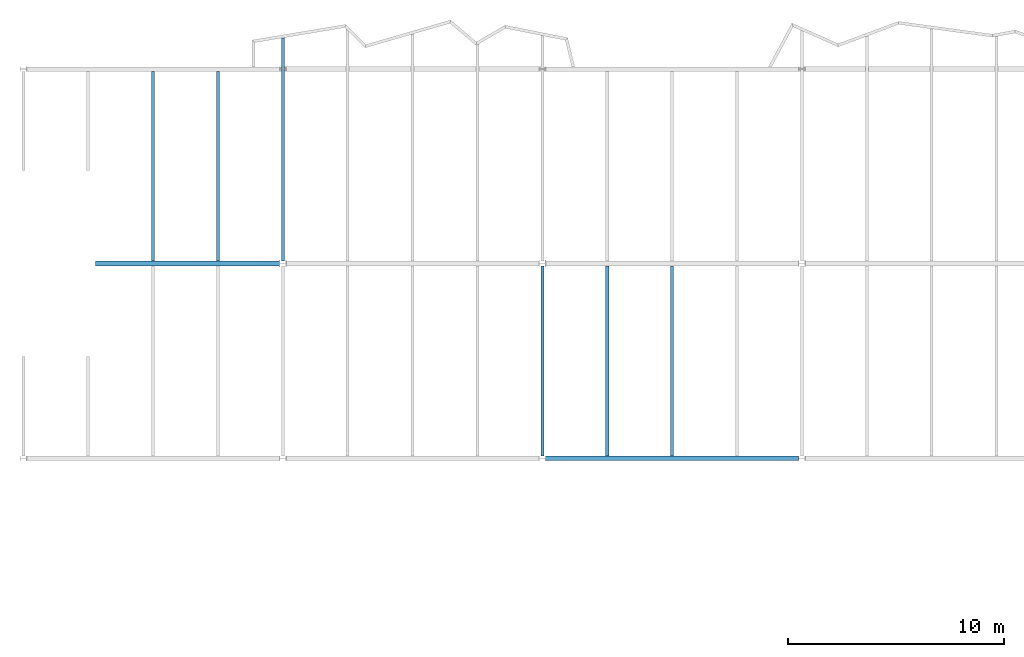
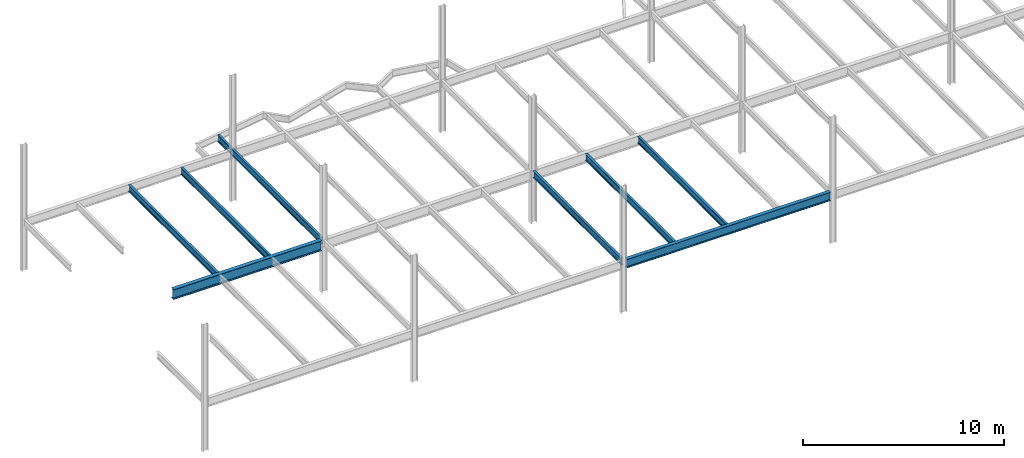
# One storey, part 4 of 23: 8 beams.
"""IFC2X3 building model written with IfcOpenShell, lengths in millimetres."""

from ifc_helpers import new_model, si_unit, origin, place, context, project, spatial, faceted_brep, material, element, save


model = new_model("IFC2X3")

# Units and contexts
context_of_model = context(None, 3, precision=1e-05, world=origin())
ifc_project = project(units=[si_unit("LENGTHUNIT", "METRE", prefix="MILLI")], contexts=[context_of_model])

# Building, storey
building = spatial("IfcBuilding", under=ifc_project, Name="Building", CompositionType="ELEMENT")
storey = spatial("IfcBuildingStorey", under=building, Name="FL5-FRM", CompositionType="ELEMENT")

# Beams
ifc_material_1 = material(Name="A992")
beam_1_placement = place(None, origin())
element("IfcBeam", 1, at=beam_1_placement, inside=storey, material=ifc_material_1, Name="B252", context=context_of_model, shape_type="Brep", body=[
    faceted_brep([(-48070.0, 37427.6, 17474.0), (-47930.0, 37450.9, 17474.0), (-47930.0, 27114.5, 17474.0), (-48070.0, 27114.5, 17474.0), (-47930.0, 37450.9, 17482.8), (-47930.0, 27114.5, 17482.8), (-47986.6, 37441.5, 17482.8), (-47986.6, 27114.5, 17482.8), (-47988.1, 37441.3, 17482.9), (-47988.1, 27114.5, 17482.9), (-47989.5, 37441.0, 17483.2), (-47989.5, 27114.5, 17483.2), (-47990.8, 37440.8, 17483.7), (-47990.8, 27114.5, 17483.7), (-47992.1, 37440.6, 17484.4), (-47992.1, 27114.5, 17484.4), (-47993.3, 37440.4, 17485.3), (-47993.3, 27114.5, 17485.3), (-47994.3, 37440.2, 17486.3), (-47994.3, 27114.5, 17486.3), (-47995.2, 37440.1, 17487.5), (-47995.2, 27114.5, 17487.5), (-47995.9, 37440.0, 17488.8), (-47995.9, 27114.5, 17488.8), (-47996.4, 37439.9, 17490.1), (-47996.4, 27114.5, 17490.1), (-47996.7, 37439.8, 17491.5), (-47996.7, 27114.5, 17491.5), (-47996.8, 37439.8, 17493.0), (-47996.8, 27114.5, 17493.0), (-47996.8, 37439.8, 17854.0), (-47996.8, 27114.5, 17854.0), (-47996.7, 37439.8, 17855.5), (-47996.7, 27114.5, 17855.5), (-47996.4, 37439.9, 17856.9), (-47996.4, 27114.5, 17856.9), (-47995.9, 37440.0, 17858.2), (-47995.9, 27114.5, 17858.2), (-47995.2, 37440.1, 17859.5), (-47995.2, 27114.5, 17859.5), (-47994.3, 37440.2, 17860.7), (-47994.3, 27114.5, 17860.7), (-47993.3, 37440.4, 17861.7), (-47993.3, 27114.5, 17861.7), (-47992.1, 37440.6, 17862.6), (-47992.1, 27114.5, 17862.6), (-47990.8, 37440.8, 17863.3), (-47990.8, 27114.5, 17863.3), (-47989.5, 37441.0, 17863.8), (-47989.5, 27114.5, 17863.8), (-47988.1, 37441.3, 17864.1), (-47988.1, 27114.5, 17864.1), (-47986.6, 37441.5, 17864.2), (-47986.6, 27114.5, 17864.2), (-47930.0, 37450.9, 17864.2), (-47930.0, 27114.5, 17864.2), (-47930.0, 37450.9, 17873.0), (-47930.0, 27114.5, 17873.0), (-48070.0, 37427.6, 17873.0), (-48070.0, 27114.5, 17873.0), (-48070.0, 37427.6, 17864.2), (-48070.0, 27114.5, 17864.2), (-48013.4, 37437.0, 17864.2), (-48013.4, 27114.5, 17864.2), (-48011.9, 37437.3, 17864.1), (-48011.9, 27114.5, 17864.1), (-48010.5, 37437.5, 17863.8), (-48010.5, 27114.5, 17863.8), (-48009.2, 37437.7, 17863.3), (-48009.2, 27114.5, 17863.3), (-48007.9, 37438.0, 17862.6), (-48007.9, 27114.5, 17862.6), (-48006.7, 37438.2, 17861.7), (-48006.7, 27114.5, 17861.7), (-48005.7, 37438.3, 17860.7), (-48005.7, 27114.5, 17860.7), (-48004.8, 37438.5, 17859.5), (-48004.8, 27114.5, 17859.5), (-48004.1, 37438.6, 17858.2), (-48004.1, 27114.5, 17858.2), (-48003.6, 37438.7, 17856.9), (-48003.6, 27114.5, 17856.9), (-48003.3, 37438.7, 17855.5), (-48003.3, 27114.5, 17855.5), (-48003.2, 37438.7, 17854.0), (-48003.2, 27114.5, 17854.0), (-48003.2, 37438.7, 17493.0), (-48003.2, 27114.5, 17493.0), (-48003.3, 37438.7, 17491.5), (-48003.3, 27114.5, 17491.5), (-48003.6, 37438.7, 17490.1), (-48003.6, 27114.5, 17490.1), (-48004.1, 37438.6, 17488.8), (-48004.1, 27114.5, 17488.8), (-48004.8, 37438.5, 17487.5), (-48004.8, 27114.5, 17487.5), (-48005.7, 37438.3, 17486.3), (-48005.7, 27114.5, 17486.3), (-48006.7, 37438.2, 17485.3), (-48006.7, 27114.5, 17485.3), (-48007.9, 37438.0, 17484.4), (-48007.9, 27114.5, 17484.4), (-48009.2, 37437.7, 17483.7), (-48009.2, 27114.5, 17483.7), (-48010.5, 37437.5, 17483.2), (-48010.5, 27114.5, 17483.2), (-48011.9, 37437.3, 17482.9), (-48011.9, 27114.5, 17482.9), (-48013.4, 37437.0, 17482.8), (-48013.4, 27114.5, 17482.8), (-48070.0, 37427.6, 17482.8), (-48070.0, 27114.5, 17482.8)], [[[0, 1, 2, 3]], [[1, 4, 5, 2]], [[4, 6, 7, 5]], [[6, 8, 9, 7]], [[8, 10, 11, 9]], [[10, 12, 13, 11]], [[12, 14, 15, 13]], [[14, 16, 17, 15]], [[16, 18, 19, 17]], [[18, 20, 21, 19]], [[20, 22, 23, 21]], [[22, 24, 25, 23]], [[24, 26, 27, 25]], [[26, 28, 29, 27]], [[28, 30, 31, 29]], [[30, 32, 33, 31]], [[32, 34, 35, 33]], [[34, 36, 37, 35]], [[36, 38, 39, 37]], [[38, 40, 41, 39]], [[40, 42, 43, 41]], [[42, 44, 45, 43]], [[44, 46, 47, 45]], [[46, 48, 49, 47]], [[48, 50, 51, 49]], [[50, 52, 53, 51]], [[52, 54, 55, 53]], [[54, 56, 57, 55]], [[56, 58, 59, 57]], [[58, 60, 61, 59]], [[60, 62, 63, 61]], [[62, 64, 65, 63]], [[64, 66, 67, 65]], [[66, 68, 69, 67]], [[68, 70, 71, 69]], [[70, 72, 73, 71]], [[72, 74, 75, 73]], [[74, 76, 77, 75]], [[76, 78, 79, 77]], [[78, 80, 81, 79]], [[80, 82, 83, 81]], [[82, 84, 85, 83]], [[84, 86, 87, 85]], [[86, 88, 89, 87]], [[88, 90, 91, 89]], [[90, 92, 93, 91]], [[92, 94, 95, 93]], [[94, 96, 97, 95]], [[96, 98, 99, 97]], [[98, 100, 101, 99]], [[100, 102, 103, 101]], [[102, 104, 105, 103]], [[104, 106, 107, 105]], [[106, 108, 109, 107]], [[108, 110, 111, 109]], [[110, 0, 3, 111]], [[0, 110, 108, 106, 104, 102, 100, 98, 96, 94, 92, 90, 88, 86, 84, 82, 80, 78, 76, 74, 72, 70, 68, 66, 64, 62, 60, 58, 56, 54, 52, 50, 48, 46, 44, 42, 40, 38, 36, 34, 32, 30, 28, 26, 24, 22, 20, 18, 16, 14, 12, 10, 8, 6, 4, 1]], [[3, 2, 5, 7, 9, 11, 13, 15, 17, 19, 21, 23, 25, 27, 29, 31, 33, 35, 37, 39, 41, 43, 45, 47, 49, 51, 53, 55, 57, 59, 61, 63, 65, 67, 69, 71, 73, 75, 77, 79, 81, 83, 85, 87, 89, 91, 93, 95, 97, 99, 101, 103, 105, 107, 109, 111]]]),
])
ifc_material_2 = material(Name="A992")
beam_2_placement = place(None, origin())
element("IfcBeam", 2, at=beam_2_placement, inside=storey, material=ifc_material_2, Name="B269", context=context_of_model, shape_type="Brep", body=[
    faceted_brep([(-51070.0, 35895.5, 17474.0), (-50930.0, 35895.5, 17474.0), (-50930.0, 27114.5, 17474.0), (-51070.0, 27114.5, 17474.0), (-50930.0, 35895.5, 17482.8), (-50930.0, 27114.5, 17482.8), (-50986.6, 35895.5, 17482.8), (-50986.6, 27114.5, 17482.8), (-50989.2, 35895.5, 17483.1), (-50989.2, 27114.5, 17483.1), (-50991.7, 35895.5, 17484.2), (-50991.7, 27114.5, 17484.2), (-50993.8, 35895.5, 17485.8), (-50993.8, 27114.5, 17485.8), (-50995.4, 35895.5, 17487.9), (-50995.4, 27114.5, 17487.9), (-50996.5, 35895.5, 17490.4), (-50996.5, 27114.5, 17490.4), (-50996.8, 35895.5, 17493.0), (-50996.8, 27114.5, 17493.0), (-50996.8, 35895.5, 17854.0), (-50996.8, 27114.5, 17854.0), (-50996.5, 35895.5, 17856.6), (-50996.5, 27114.5, 17856.6), (-50995.4, 35895.5, 17859.1), (-50995.4, 27114.5, 17859.1), (-50993.8, 35895.5, 17861.2), (-50993.8, 27114.5, 17861.2), (-50991.7, 35895.5, 17862.8), (-50991.7, 27114.5, 17862.8), (-50989.2, 35895.5, 17863.9), (-50989.2, 27114.5, 17863.9), (-50986.6, 35895.5, 17864.2), (-50986.6, 27114.5, 17864.2), (-50930.0, 35895.5, 17864.2), (-50930.0, 27114.5, 17864.2), (-50930.0, 35895.5, 17873.0), (-50930.0, 27114.5, 17873.0), (-51070.0, 35895.5, 17873.0), (-51070.0, 27114.5, 17873.0), (-51070.0, 35895.5, 17864.2), (-51070.0, 27114.5, 17864.2), (-51013.4, 35895.5, 17864.2), (-51013.4, 27114.5, 17864.2), (-51010.8, 35895.5, 17863.9), (-51010.8, 27114.5, 17863.9), (-51008.3, 35895.5, 17862.8), (-51008.3, 27114.5, 17862.8), (-51006.2, 35895.5, 17861.2), (-51006.2, 27114.5, 17861.2), (-51004.6, 35895.5, 17859.1), (-51004.6, 27114.5, 17859.1), (-51003.5, 35895.5, 17856.6), (-51003.5, 27114.5, 17856.6), (-51003.2, 35895.5, 17854.0), (-51003.2, 27114.5, 17854.0), (-51003.2, 35895.5, 17493.0), (-51003.2, 27114.5, 17493.0), (-51003.5, 35895.5, 17490.4), (-51003.5, 27114.5, 17490.4), (-51004.6, 35895.5, 17487.9), (-51004.6, 27114.5, 17487.9), (-51006.2, 35895.5, 17485.8), (-51006.2, 27114.5, 17485.8), (-51008.3, 35895.5, 17484.2), (-51008.3, 27114.5, 17484.2), (-51010.8, 35895.5, 17483.1), (-51010.8, 27114.5, 17483.1), (-51013.4, 35895.5, 17482.8), (-51013.4, 27114.5, 17482.8), (-51070.0, 35895.5, 17482.8), (-51070.0, 27114.5, 17482.8)], [[[0, 1, 2, 3]], [[1, 4, 5, 2]], [[4, 6, 7, 5]], [[6, 8, 9, 7]], [[8, 10, 11, 9]], [[10, 12, 13, 11]], [[12, 14, 15, 13]], [[14, 16, 17, 15]], [[16, 18, 19, 17]], [[18, 20, 21, 19]], [[20, 22, 23, 21]], [[22, 24, 25, 23]], [[24, 26, 27, 25]], [[26, 28, 29, 27]], [[28, 30, 31, 29]], [[30, 32, 33, 31]], [[32, 34, 35, 33]], [[34, 36, 37, 35]], [[36, 38, 39, 37]], [[38, 40, 41, 39]], [[40, 42, 43, 41]], [[42, 44, 45, 43]], [[44, 46, 47, 45]], [[46, 48, 49, 47]], [[48, 50, 51, 49]], [[50, 52, 53, 51]], [[52, 54, 55, 53]], [[54, 56, 57, 55]], [[56, 58, 59, 57]], [[58, 60, 61, 59]], [[60, 62, 63, 61]], [[62, 64, 65, 63]], [[64, 66, 67, 65]], [[66, 68, 69, 67]], [[68, 70, 71, 69]], [[70, 0, 3, 71]], [[0, 70, 68, 66, 64, 62, 60, 58, 56, 54, 52, 50, 48, 46, 44, 42, 40, 38, 36, 34, 32, 30, 28, 26, 24, 22, 20, 18, 16, 14, 12, 10, 8, 6, 4, 1]], [[3, 2, 5, 7, 9, 11, 13, 15, 17, 19, 21, 23, 25, 27, 29, 31, 33, 35, 37, 39, 41, 43, 45, 47, 49, 51, 53, 55, 57, 59, 61, 63, 65, 67, 69, 71]]]),
])
ifc_material_3 = material(Name="A992")
beam_3_placement = place(None, origin())
element("IfcBeam", 3, at=beam_3_placement, inside=storey, material=ifc_material_3, Name="B270", context=context_of_model, shape_type="Brep", body=[
    faceted_brep([(-54070.0, 35895.5, 17474.0), (-53930.0, 35895.5, 17474.0), (-53930.0, 27114.5, 17474.0), (-54070.0, 27114.5, 17474.0), (-53930.0, 35895.5, 17482.8), (-53930.0, 27114.5, 17482.8), (-53986.6, 35895.5, 17482.8), (-53986.6, 27114.5, 17482.8), (-53989.2, 35895.5, 17483.1), (-53989.2, 27114.5, 17483.1), (-53991.7, 35895.5, 17484.2), (-53991.7, 27114.5, 17484.2), (-53993.8, 35895.5, 17485.8), (-53993.8, 27114.5, 17485.8), (-53995.4, 35895.5, 17487.9), (-53995.4, 27114.5, 17487.9), (-53996.5, 35895.5, 17490.4), (-53996.5, 27114.5, 17490.4), (-53996.8, 35895.5, 17493.0), (-53996.8, 27114.5, 17493.0), (-53996.8, 35895.5, 17854.0), (-53996.8, 27114.5, 17854.0), (-53996.5, 35895.5, 17856.6), (-53996.5, 27114.5, 17856.6), (-53995.4, 35895.5, 17859.1), (-53995.4, 27114.5, 17859.1), (-53993.8, 35895.5, 17861.2), (-53993.8, 27114.5, 17861.2), (-53991.7, 35895.5, 17862.8), (-53991.7, 27114.5, 17862.8), (-53989.2, 35895.5, 17863.9), (-53989.2, 27114.5, 17863.9), (-53986.6, 35895.5, 17864.2), (-53986.6, 27114.5, 17864.2), (-53930.0, 35895.5, 17864.2), (-53930.0, 27114.5, 17864.2), (-53930.0, 35895.5, 17873.0), (-53930.0, 27114.5, 17873.0), (-54070.0, 35895.5, 17873.0), (-54070.0, 27114.5, 17873.0), (-54070.0, 35895.5, 17864.2), (-54070.0, 27114.5, 17864.2), (-54013.4, 35895.5, 17864.2), (-54013.4, 27114.5, 17864.2), (-54010.8, 35895.5, 17863.9), (-54010.8, 27114.5, 17863.9), (-54008.3, 35895.5, 17862.8), (-54008.3, 27114.5, 17862.8), (-54006.2, 35895.5, 17861.2), (-54006.2, 27114.5, 17861.2), (-54004.6, 35895.5, 17859.1), (-54004.6, 27114.5, 17859.1), (-54003.5, 35895.5, 17856.6), (-54003.5, 27114.5, 17856.6), (-54003.2, 35895.5, 17854.0), (-54003.2, 27114.5, 17854.0), (-54003.2, 35895.5, 17493.0), (-54003.2, 27114.5, 17493.0), (-54003.5, 35895.5, 17490.4), (-54003.5, 27114.5, 17490.4), (-54004.6, 35895.5, 17487.9), (-54004.6, 27114.5, 17487.9), (-54006.2, 35895.5, 17485.8), (-54006.2, 27114.5, 17485.8), (-54008.3, 35895.5, 17484.2), (-54008.3, 27114.5, 17484.2), (-54010.8, 35895.5, 17483.1), (-54010.8, 27114.5, 17483.1), (-54013.4, 35895.5, 17482.8), (-54013.4, 27114.5, 17482.8), (-54070.0, 35895.5, 17482.8), (-54070.0, 27114.5, 17482.8)], [[[0, 1, 2, 3]], [[1, 4, 5, 2]], [[4, 6, 7, 5]], [[6, 8, 9, 7]], [[8, 10, 11, 9]], [[10, 12, 13, 11]], [[12, 14, 15, 13]], [[14, 16, 17, 15]], [[16, 18, 19, 17]], [[18, 20, 21, 19]], [[20, 22, 23, 21]], [[22, 24, 25, 23]], [[24, 26, 27, 25]], [[26, 28, 29, 27]], [[28, 30, 31, 29]], [[30, 32, 33, 31]], [[32, 34, 35, 33]], [[34, 36, 37, 35]], [[36, 38, 39, 37]], [[38, 40, 41, 39]], [[40, 42, 43, 41]], [[42, 44, 45, 43]], [[44, 46, 47, 45]], [[46, 48, 49, 47]], [[48, 50, 51, 49]], [[50, 52, 53, 51]], [[52, 54, 55, 53]], [[54, 56, 57, 55]], [[56, 58, 59, 57]], [[58, 60, 61, 59]], [[60, 62, 63, 61]], [[62, 64, 65, 63]], [[64, 66, 67, 65]], [[66, 68, 69, 67]], [[68, 70, 71, 69]], [[70, 0, 3, 71]], [[0, 70, 68, 66, 64, 62, 60, 58, 56, 54, 52, 50, 48, 46, 44, 42, 40, 38, 36, 34, 32, 30, 28, 26, 24, 22, 20, 18, 16, 14, 12, 10, 8, 6, 4, 1]], [[3, 2, 5, 7, 9, 11, 13, 15, 17, 19, 21, 23, 25, 27, 29, 31, 33, 35, 37, 39, 41, 43, 45, 47, 49, 51, 53, 55, 57, 59, 61, 63, 65, 67, 69, 71]]]),
])
ifc_material_4 = material(Name="A992")
beam_4_placement = place(None, origin())
element("IfcBeam", 4, at=beam_4_placement, inside=storey, material=ifc_material_4, Name="Column414", context=context_of_model, shape_type="Brep", body=[
    faceted_brep([(-35847.0, 17895.5, 17345.0), (-35847.0, 18104.5, 17345.0), (-24153.0, 18104.5, 17345.0), (-24153.0, 17895.5, 17345.0), (-35847.0, 18104.5, 17358.3), (-24153.0, 18104.5, 17358.3), (-35847.0, 18017.4, 17358.3), (-24153.0, 18017.4, 17358.3), (-35847.0, 18014.2, 17358.7), (-24153.0, 18014.2, 17358.7), (-35847.0, 18011.1, 17360.0), (-24153.0, 18011.1, 17360.0), (-35847.0, 18008.5, 17362.0), (-24153.0, 18008.5, 17362.0), (-35847.0, 18006.5, 17364.7), (-24153.0, 18006.5, 17364.7), (-35847.0, 18005.2, 17367.7), (-24153.0, 18005.2, 17367.7), (-35847.0, 18004.8, 17371.0), (-24153.0, 18004.8, 17371.0), (-35847.0, 18004.8, 17847.0), (-24153.0, 18004.8, 17847.0), (-35847.0, 18005.2, 17850.3), (-24153.0, 18005.2, 17850.3), (-35847.0, 18006.5, 17853.3), (-24153.0, 18006.5, 17853.3), (-35847.0, 18008.5, 17856.0), (-24153.0, 18008.5, 17856.0), (-35847.0, 18011.1, 17858.0), (-24153.0, 18011.1, 17858.0), (-35847.0, 18014.2, 17859.3), (-24153.0, 18014.2, 17859.3), (-35847.0, 18017.4, 17859.7), (-24153.0, 18017.4, 17859.7), (-35847.0, 18104.5, 17859.7), (-24153.0, 18104.5, 17859.7), (-35847.0, 18104.5, 17873.0), (-24153.0, 18104.5, 17873.0), (-35847.0, 17895.5, 17873.0), (-24153.0, 17895.5, 17873.0), (-35847.0, 17895.5, 17859.7), (-24153.0, 17895.5, 17859.7), (-35847.0, 17982.6, 17859.7), (-24153.0, 17982.6, 17859.7), (-35847.0, 17985.8, 17859.3), (-24153.0, 17985.8, 17859.3), (-35847.0, 17988.9, 17858.0), (-24153.0, 17988.9, 17858.0), (-35847.0, 17991.5, 17856.0), (-24153.0, 17991.5, 17856.0), (-35847.0, 17993.5, 17853.3), (-24153.0, 17993.5, 17853.3), (-35847.0, 17994.8, 17850.3), (-24153.0, 17994.8, 17850.3), (-35847.0, 17995.3, 17847.0), (-24153.0, 17995.3, 17847.0), (-35847.0, 17995.3, 17371.0), (-24153.0, 17995.3, 17371.0), (-35847.0, 17994.8, 17367.7), (-24153.0, 17994.8, 17367.7), (-35847.0, 17993.5, 17364.7), (-24153.0, 17993.5, 17364.7), (-35847.0, 17991.5, 17362.0), (-24153.0, 17991.5, 17362.0), (-35847.0, 17988.9, 17360.0), (-24153.0, 17988.9, 17360.0), (-35847.0, 17985.8, 17358.7), (-24153.0, 17985.8, 17358.7), (-35847.0, 17982.6, 17358.3), (-24153.0, 17982.6, 17358.3), (-35847.0, 17895.5, 17358.3), (-24153.0, 17895.5, 17358.3)], [[[0, 1, 2, 3]], [[1, 4, 5, 2]], [[4, 6, 7, 5]], [[6, 8, 9, 7]], [[8, 10, 11, 9]], [[10, 12, 13, 11]], [[12, 14, 15, 13]], [[14, 16, 17, 15]], [[16, 18, 19, 17]], [[18, 20, 21, 19]], [[20, 22, 23, 21]], [[22, 24, 25, 23]], [[24, 26, 27, 25]], [[26, 28, 29, 27]], [[28, 30, 31, 29]], [[30, 32, 33, 31]], [[32, 34, 35, 33]], [[34, 36, 37, 35]], [[36, 38, 39, 37]], [[38, 40, 41, 39]], [[40, 42, 43, 41]], [[42, 44, 45, 43]], [[44, 46, 47, 45]], [[46, 48, 49, 47]], [[48, 50, 51, 49]], [[50, 52, 53, 51]], [[52, 54, 55, 53]], [[54, 56, 57, 55]], [[56, 58, 59, 57]], [[58, 60, 61, 59]], [[60, 62, 63, 61]], [[62, 64, 65, 63]], [[64, 66, 67, 65]], [[66, 68, 69, 67]], [[68, 70, 71, 69]], [[70, 0, 3, 71]], [[0, 70, 68, 66, 64, 62, 60, 58, 56, 54, 52, 50, 48, 46, 44, 42, 40, 38, 36, 34, 32, 30, 28, 26, 24, 22, 20, 18, 16, 14, 12, 10, 8, 6, 4, 1]], [[3, 2, 5, 7, 9, 11, 13, 15, 17, 19, 21, 23, 25, 27, 29, 31, 33, 35, 37, 39, 41, 43, 45, 47, 49, 51, 53, 55, 57, 59, 61, 63, 65, 67, 69, 71]]]),
])
ifc_material_5 = material(Name="A992")
beam_5_placement = place(None, origin())
element("IfcBeam", 5, at=beam_5_placement, inside=storey, material=ifc_material_5, Name="B293", context=context_of_model, shape_type="Brep", body=[
    faceted_brep([(-35930.0, 18104.5, 17474.0), (-36070.0, 18104.5, 17474.0), (-36070.0, 26885.5, 17474.0), (-35930.0, 26885.5, 17474.0), (-36070.0, 18104.5, 17482.8), (-36070.0, 26885.5, 17482.8), (-36013.4, 18104.5, 17482.8), (-36013.4, 26885.5, 17482.8), (-36010.8, 18104.5, 17483.1), (-36010.8, 26885.5, 17483.1), (-36008.3, 18104.5, 17484.2), (-36008.3, 26885.5, 17484.2), (-36006.2, 18104.5, 17485.8), (-36006.2, 26885.5, 17485.8), (-36004.6, 18104.5, 17487.9), (-36004.6, 26885.5, 17487.9), (-36003.5, 18104.5, 17490.4), (-36003.5, 26885.5, 17490.4), (-36003.2, 18104.5, 17493.0), (-36003.2, 26885.5, 17493.0), (-36003.2, 18104.5, 17854.0), (-36003.2, 26885.5, 17854.0), (-36003.5, 18104.5, 17856.6), (-36003.5, 26885.5, 17856.6), (-36004.6, 18104.5, 17859.1), (-36004.6, 26885.5, 17859.1), (-36006.2, 18104.5, 17861.2), (-36006.2, 26885.5, 17861.2), (-36008.3, 18104.5, 17862.8), (-36008.3, 26885.5, 17862.8), (-36010.8, 18104.5, 17863.9), (-36010.8, 26885.5, 17863.9), (-36013.4, 18104.5, 17864.2), (-36013.4, 26885.5, 17864.2), (-36070.0, 18104.5, 17864.2), (-36070.0, 26885.5, 17864.2), (-36070.0, 18104.5, 17873.0), (-36070.0, 26885.5, 17873.0), (-35930.0, 18104.5, 17873.0), (-35930.0, 26885.5, 17873.0), (-35930.0, 18104.5, 17864.2), (-35930.0, 26885.5, 17864.2), (-35986.6, 18104.5, 17864.2), (-35986.6, 26885.5, 17864.2), (-35989.2, 18104.5, 17863.9), (-35989.2, 26885.5, 17863.9), (-35991.7, 18104.5, 17862.8), (-35991.7, 26885.5, 17862.8), (-35993.8, 18104.5, 17861.2), (-35993.8, 26885.5, 17861.2), (-35995.4, 18104.5, 17859.1), (-35995.4, 26885.5, 17859.1), (-35996.5, 18104.5, 17856.6), (-35996.5, 26885.5, 17856.6), (-35996.8, 18104.5, 17854.0), (-35996.8, 26885.5, 17854.0), (-35996.8, 18104.5, 17493.0), (-35996.8, 26885.5, 17493.0), (-35996.5, 18104.5, 17490.4), (-35996.5, 26885.5, 17490.4), (-35995.4, 18104.5, 17487.9), (-35995.4, 26885.5, 17487.9), (-35993.8, 18104.5, 17485.8), (-35993.8, 26885.5, 17485.8), (-35991.7, 18104.5, 17484.2), (-35991.7, 26885.5, 17484.2), (-35989.2, 18104.5, 17483.1), (-35989.2, 26885.5, 17483.1), (-35986.6, 18104.5, 17482.8), (-35986.6, 26885.5, 17482.8), (-35930.0, 18104.5, 17482.8), (-35930.0, 26885.5, 17482.8)], [[[0, 1, 2, 3]], [[1, 4, 5, 2]], [[4, 6, 7, 5]], [[6, 8, 9, 7]], [[8, 10, 11, 9]], [[10, 12, 13, 11]], [[12, 14, 15, 13]], [[14, 16, 17, 15]], [[16, 18, 19, 17]], [[18, 20, 21, 19]], [[20, 22, 23, 21]], [[22, 24, 25, 23]], [[24, 26, 27, 25]], [[26, 28, 29, 27]], [[28, 30, 31, 29]], [[30, 32, 33, 31]], [[32, 34, 35, 33]], [[34, 36, 37, 35]], [[36, 38, 39, 37]], [[38, 40, 41, 39]], [[40, 42, 43, 41]], [[42, 44, 45, 43]], [[44, 46, 47, 45]], [[46, 48, 49, 47]], [[48, 50, 51, 49]], [[50, 52, 53, 51]], [[52, 54, 55, 53]], [[54, 56, 57, 55]], [[56, 58, 59, 57]], [[58, 60, 61, 59]], [[60, 62, 63, 61]], [[62, 64, 65, 63]], [[64, 66, 67, 65]], [[66, 68, 69, 67]], [[68, 70, 71, 69]], [[70, 0, 3, 71]], [[0, 70, 68, 66, 64, 62, 60, 58, 56, 54, 52, 50, 48, 46, 44, 42, 40, 38, 36, 34, 32, 30, 28, 26, 24, 22, 20, 18, 16, 14, 12, 10, 8, 6, 4, 1]], [[3, 2, 5, 7, 9, 11, 13, 15, 17, 19, 21, 23, 25, 27, 29, 31, 33, 35, 37, 39, 41, 43, 45, 47, 49, 51, 53, 55, 57, 59, 61, 63, 65, 67, 69, 71]]]),
])
ifc_material_6 = material(Name="A992")
beam_6_placement = place(None, origin())
element("IfcBeam", 6, at=beam_6_placement, inside=storey, material=ifc_material_6, Name="B294", context=context_of_model, shape_type="Brep", body=[
    faceted_brep([(-32930.0, 18104.5, 17474.0), (-33070.0, 18104.5, 17474.0), (-33070.0, 26885.5, 17474.0), (-32930.0, 26885.5, 17474.0), (-33070.0, 18104.5, 17482.8), (-33070.0, 26885.5, 17482.8), (-33013.4, 18104.5, 17482.8), (-33013.4, 26885.5, 17482.8), (-33010.8, 18104.5, 17483.1), (-33010.8, 26885.5, 17483.1), (-33008.3, 18104.5, 17484.2), (-33008.3, 26885.5, 17484.2), (-33006.2, 18104.5, 17485.8), (-33006.2, 26885.5, 17485.8), (-33004.6, 18104.5, 17487.9), (-33004.6, 26885.5, 17487.9), (-33003.5, 18104.5, 17490.4), (-33003.5, 26885.5, 17490.4), (-33003.2, 18104.5, 17493.0), (-33003.2, 26885.5, 17493.0), (-33003.2, 18104.5, 17854.0), (-33003.2, 26885.5, 17854.0), (-33003.5, 18104.5, 17856.6), (-33003.5, 26885.5, 17856.6), (-33004.6, 18104.5, 17859.1), (-33004.6, 26885.5, 17859.1), (-33006.2, 18104.5, 17861.2), (-33006.2, 26885.5, 17861.2), (-33008.3, 18104.5, 17862.8), (-33008.3, 26885.5, 17862.8), (-33010.8, 18104.5, 17863.9), (-33010.8, 26885.5, 17863.9), (-33013.4, 18104.5, 17864.2), (-33013.4, 26885.5, 17864.2), (-33070.0, 18104.5, 17864.2), (-33070.0, 26885.5, 17864.2), (-33070.0, 18104.5, 17873.0), (-33070.0, 26885.5, 17873.0), (-32930.0, 18104.5, 17873.0), (-32930.0, 26885.5, 17873.0), (-32930.0, 18104.5, 17864.2), (-32930.0, 26885.5, 17864.2), (-32986.6, 18104.5, 17864.2), (-32986.6, 26885.5, 17864.2), (-32989.2, 18104.5, 17863.9), (-32989.2, 26885.5, 17863.9), (-32991.7, 18104.5, 17862.8), (-32991.7, 26885.5, 17862.8), (-32993.8, 18104.5, 17861.2), (-32993.8, 26885.5, 17861.2), (-32995.4, 18104.5, 17859.1), (-32995.4, 26885.5, 17859.1), (-32996.5, 18104.5, 17856.6), (-32996.5, 26885.5, 17856.6), (-32996.8, 18104.5, 17854.0), (-32996.8, 26885.5, 17854.0), (-32996.8, 18104.5, 17493.0), (-32996.8, 26885.5, 17493.0), (-32996.5, 18104.5, 17490.4), (-32996.5, 26885.5, 17490.4), (-32995.4, 18104.5, 17487.9), (-32995.4, 26885.5, 17487.9), (-32993.8, 18104.5, 17485.8), (-32993.8, 26885.5, 17485.8), (-32991.7, 18104.5, 17484.2), (-32991.7, 26885.5, 17484.2), (-32989.2, 18104.5, 17483.1), (-32989.2, 26885.5, 17483.1), (-32986.6, 18104.5, 17482.8), (-32986.6, 26885.5, 17482.8), (-32930.0, 18104.5, 17482.8), (-32930.0, 26885.5, 17482.8)], [[[0, 1, 2, 3]], [[1, 4, 5, 2]], [[4, 6, 7, 5]], [[6, 8, 9, 7]], [[8, 10, 11, 9]], [[10, 12, 13, 11]], [[12, 14, 15, 13]], [[14, 16, 17, 15]], [[16, 18, 19, 17]], [[18, 20, 21, 19]], [[20, 22, 23, 21]], [[22, 24, 25, 23]], [[24, 26, 27, 25]], [[26, 28, 29, 27]], [[28, 30, 31, 29]], [[30, 32, 33, 31]], [[32, 34, 35, 33]], [[34, 36, 37, 35]], [[36, 38, 39, 37]], [[38, 40, 41, 39]], [[40, 42, 43, 41]], [[42, 44, 45, 43]], [[44, 46, 47, 45]], [[46, 48, 49, 47]], [[48, 50, 51, 49]], [[50, 52, 53, 51]], [[52, 54, 55, 53]], [[54, 56, 57, 55]], [[56, 58, 59, 57]], [[58, 60, 61, 59]], [[60, 62, 63, 61]], [[62, 64, 65, 63]], [[64, 66, 67, 65]], [[66, 68, 69, 67]], [[68, 70, 71, 69]], [[70, 0, 3, 71]], [[0, 70, 68, 66, 64, 62, 60, 58, 56, 54, 52, 50, 48, 46, 44, 42, 40, 38, 36, 34, 32, 30, 28, 26, 24, 22, 20, 18, 16, 14, 12, 10, 8, 6, 4, 1]], [[3, 2, 5, 7, 9, 11, 13, 15, 17, 19, 21, 23, 25, 27, 29, 31, 33, 35, 37, 39, 41, 43, 45, 47, 49, 51, 53, 55, 57, 59, 61, 63, 65, 67, 69, 71]]]),
])
ifc_material_7 = material(Name="A992")
beam_7_placement = place(None, origin())
element("IfcBeam", 7, at=beam_7_placement, inside=storey, material=ifc_material_7, Name="B295", context=context_of_model, shape_type="Brep", body=[
    faceted_brep([(-29930.0, 18104.5, 17474.0), (-30070.0, 18104.5, 17474.0), (-30070.0, 26885.5, 17474.0), (-29930.0, 26885.5, 17474.0), (-30070.0, 18104.5, 17482.8), (-30070.0, 26885.5, 17482.8), (-30013.4, 18104.5, 17482.8), (-30013.4, 26885.5, 17482.8), (-30010.8, 18104.5, 17483.1), (-30010.8, 26885.5, 17483.1), (-30008.3, 18104.5, 17484.2), (-30008.3, 26885.5, 17484.2), (-30006.2, 18104.5, 17485.8), (-30006.2, 26885.5, 17485.8), (-30004.6, 18104.5, 17487.9), (-30004.6, 26885.5, 17487.9), (-30003.5, 18104.5, 17490.4), (-30003.5, 26885.5, 17490.4), (-30003.2, 18104.5, 17493.0), (-30003.2, 26885.5, 17493.0), (-30003.2, 18104.5, 17854.0), (-30003.2, 26885.5, 17854.0), (-30003.5, 18104.5, 17856.6), (-30003.5, 26885.5, 17856.6), (-30004.6, 18104.5, 17859.1), (-30004.6, 26885.5, 17859.1), (-30006.2, 18104.5, 17861.2), (-30006.2, 26885.5, 17861.2), (-30008.3, 18104.5, 17862.8), (-30008.3, 26885.5, 17862.8), (-30010.8, 18104.5, 17863.9), (-30010.8, 26885.5, 17863.9), (-30013.4, 18104.5, 17864.2), (-30013.4, 26885.5, 17864.2), (-30070.0, 18104.5, 17864.2), (-30070.0, 26885.5, 17864.2), (-30070.0, 18104.5, 17873.0), (-30070.0, 26885.5, 17873.0), (-29930.0, 18104.5, 17873.0), (-29930.0, 26885.5, 17873.0), (-29930.0, 18104.5, 17864.2), (-29930.0, 26885.5, 17864.2), (-29986.6, 18104.5, 17864.2), (-29986.6, 26885.5, 17864.2), (-29989.2, 18104.5, 17863.9), (-29989.2, 26885.5, 17863.9), (-29991.7, 18104.5, 17862.8), (-29991.7, 26885.5, 17862.8), (-29993.8, 18104.5, 17861.2), (-29993.8, 26885.5, 17861.2), (-29995.4, 18104.5, 17859.1), (-29995.4, 26885.5, 17859.1), (-29996.5, 18104.5, 17856.6), (-29996.5, 26885.5, 17856.6), (-29996.8, 18104.5, 17854.0), (-29996.8, 26885.5, 17854.0), (-29996.8, 18104.5, 17493.0), (-29996.8, 26885.5, 17493.0), (-29996.5, 18104.5, 17490.4), (-29996.5, 26885.5, 17490.4), (-29995.4, 18104.5, 17487.9), (-29995.4, 26885.5, 17487.9), (-29993.8, 18104.5, 17485.8), (-29993.8, 26885.5, 17485.8), (-29991.7, 18104.5, 17484.2), (-29991.7, 26885.5, 17484.2), (-29989.2, 18104.5, 17483.1), (-29989.2, 26885.5, 17483.1), (-29986.6, 18104.5, 17482.8), (-29986.6, 26885.5, 17482.8), (-29930.0, 18104.5, 17482.8), (-29930.0, 26885.5, 17482.8)], [[[0, 1, 2, 3]], [[1, 4, 5, 2]], [[4, 6, 7, 5]], [[6, 8, 9, 7]], [[8, 10, 11, 9]], [[10, 12, 13, 11]], [[12, 14, 15, 13]], [[14, 16, 17, 15]], [[16, 18, 19, 17]], [[18, 20, 21, 19]], [[20, 22, 23, 21]], [[22, 24, 25, 23]], [[24, 26, 27, 25]], [[26, 28, 29, 27]], [[28, 30, 31, 29]], [[30, 32, 33, 31]], [[32, 34, 35, 33]], [[34, 36, 37, 35]], [[36, 38, 39, 37]], [[38, 40, 41, 39]], [[40, 42, 43, 41]], [[42, 44, 45, 43]], [[44, 46, 47, 45]], [[46, 48, 49, 47]], [[48, 50, 51, 49]], [[50, 52, 53, 51]], [[52, 54, 55, 53]], [[54, 56, 57, 55]], [[56, 58, 59, 57]], [[58, 60, 61, 59]], [[60, 62, 63, 61]], [[62, 64, 65, 63]], [[64, 66, 67, 65]], [[66, 68, 69, 67]], [[68, 70, 71, 69]], [[70, 0, 3, 71]], [[0, 70, 68, 66, 64, 62, 60, 58, 56, 54, 52, 50, 48, 46, 44, 42, 40, 38, 36, 34, 32, 30, 28, 26, 24, 22, 20, 18, 16, 14, 12, 10, 8, 6, 4, 1]], [[3, 2, 5, 7, 9, 11, 13, 15, 17, 19, 21, 23, 25, 27, 29, 31, 33, 35, 37, 39, 41, 43, 45, 47, 49, 51, 53, 55, 57, 59, 61, 63, 65, 67, 69, 71]]]),
])
ifc_material_8 = material(Name="A992")
beam_8_placement = place(None, origin())
element("IfcBeam", 8, at=beam_8_placement, inside=storey, material=ifc_material_8, Name="Column619", context=context_of_model, shape_type="Brep", body=[
    faceted_brep([(-56650.0, 26885.5, 17261.0), (-56650.0, 27114.5, 17261.0), (-48154.0, 27114.5, 17261.0), (-48154.0, 26885.5, 17261.0), (-56650.0, 27114.5, 17280.6), (-48154.0, 27114.5, 17280.6), (-56650.0, 27018.6, 17280.6), (-48154.0, 27018.6, 17280.6), (-56650.0, 27015.4, 17281.0), (-48154.0, 27015.4, 17281.0), (-56650.0, 27012.3, 17282.3), (-48154.0, 27012.3, 17282.3), (-56650.0, 27009.7, 17284.3), (-48154.0, 27009.7, 17284.3), (-56650.0, 27007.7, 17287.0), (-48154.0, 27007.7, 17287.0), (-56650.0, 27006.4, 17290.0), (-48154.0, 27006.4, 17290.0), (-56650.0, 27005.9, 17293.3), (-48154.0, 27005.9, 17293.3), (-56650.0, 27005.9, 17840.7), (-48154.0, 27005.9, 17840.7), (-56650.0, 27006.4, 17844.0), (-48154.0, 27006.4, 17844.0), (-56650.0, 27007.7, 17847.0), (-48154.0, 27007.7, 17847.0), (-56650.0, 27009.7, 17849.7), (-48154.0, 27009.7, 17849.7), (-56650.0, 27012.3, 17851.7), (-48154.0, 27012.3, 17851.7), (-56650.0, 27015.4, 17853.0), (-48154.0, 27015.4, 17853.0), (-56650.0, 27018.6, 17853.4), (-48154.0, 27018.6, 17853.4), (-56650.0, 27114.5, 17853.4), (-48154.0, 27114.5, 17853.4), (-56650.0, 27114.5, 17873.0), (-48154.0, 27114.5, 17873.0), (-56650.0, 26885.5, 17873.0), (-48154.0, 26885.5, 17873.0), (-56650.0, 26885.5, 17853.4), (-48154.0, 26885.5, 17853.4), (-56650.0, 26981.4, 17853.4), (-48154.0, 26981.4, 17853.4), (-56650.0, 26984.6, 17853.0), (-48154.0, 26984.6, 17853.0), (-56650.0, 26987.7, 17851.7), (-48154.0, 26987.7, 17851.7), (-56650.0, 26990.3, 17849.7), (-48154.0, 26990.3, 17849.7), (-56650.0, 26992.3, 17847.0), (-48154.0, 26992.3, 17847.0), (-56650.0, 26993.6, 17844.0), (-48154.0, 26993.6, 17844.0), (-56650.0, 26994.1, 17840.7), (-48154.0, 26994.1, 17840.7), (-56650.0, 26994.1, 17293.3), (-48154.0, 26994.1, 17293.3), (-56650.0, 26993.6, 17290.0), (-48154.0, 26993.6, 17290.0), (-56650.0, 26992.3, 17287.0), (-48154.0, 26992.3, 17287.0), (-56650.0, 26990.3, 17284.3), (-48154.0, 26990.3, 17284.3), (-56650.0, 26987.7, 17282.3), (-48154.0, 26987.7, 17282.3), (-56650.0, 26984.6, 17281.0), (-48154.0, 26984.6, 17281.0), (-56650.0, 26981.4, 17280.6), (-48154.0, 26981.4, 17280.6), (-56650.0, 26885.5, 17280.6), (-48154.0, 26885.5, 17280.6)], [[[0, 1, 2, 3]], [[1, 4, 5, 2]], [[4, 6, 7, 5]], [[6, 8, 9, 7]], [[8, 10, 11, 9]], [[10, 12, 13, 11]], [[12, 14, 15, 13]], [[14, 16, 17, 15]], [[16, 18, 19, 17]], [[18, 20, 21, 19]], [[20, 22, 23, 21]], [[22, 24, 25, 23]], [[24, 26, 27, 25]], [[26, 28, 29, 27]], [[28, 30, 31, 29]], [[30, 32, 33, 31]], [[32, 34, 35, 33]], [[34, 36, 37, 35]], [[36, 38, 39, 37]], [[38, 40, 41, 39]], [[40, 42, 43, 41]], [[42, 44, 45, 43]], [[44, 46, 47, 45]], [[46, 48, 49, 47]], [[48, 50, 51, 49]], [[50, 52, 53, 51]], [[52, 54, 55, 53]], [[54, 56, 57, 55]], [[56, 58, 59, 57]], [[58, 60, 61, 59]], [[60, 62, 63, 61]], [[62, 64, 65, 63]], [[64, 66, 67, 65]], [[66, 68, 69, 67]], [[68, 70, 71, 69]], [[70, 0, 3, 71]], [[0, 70, 68, 66, 64, 62, 60, 58, 56, 54, 52, 50, 48, 46, 44, 42, 40, 38, 36, 34, 32, 30, 28, 26, 24, 22, 20, 18, 16, 14, 12, 10, 8, 6, 4, 1]], [[3, 2, 5, 7, 9, 11, 13, 15, 17, 19, 21, 23, 25, 27, 29, 31, 33, 35, 37, 39, 41, 43, 45, 47, 49, 51, 53, 55, 57, 59, 61, 63, 65, 67, 69, 71]]]),
])

save(model, "model.ifc")
